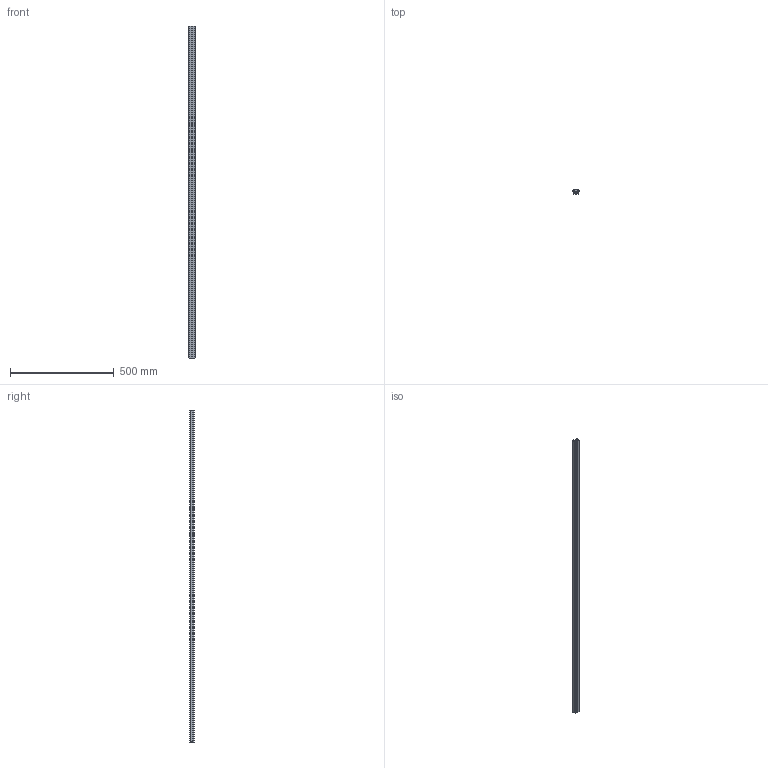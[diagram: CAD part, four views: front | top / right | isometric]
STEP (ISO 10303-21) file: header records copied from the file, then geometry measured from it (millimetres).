
FILE_DESCRIPTION (( 'STEP AP203' ), '1' );
FILE_NAME ('MLF 1_-_MLF 1 1598 mm lang.step', '2005-06-03T08:17:26', ( ' ' ), ( ' ' ), 'SwSTEP 2.0', 'SolidWorks 2004231', '' );
FILE_SCHEMA (( 'CONFIG_CONTROL_DESIGN' ));
Length unit declared in the file: millimetre
Products named in the file (1): MLF 1_-_MLF 1  1598 mm lang
Bounding box: 30 x 20 x 1598 mm (x, y, z)
Volume: 646419.7 mm3; surface area: 281166.3 mm2
Topology: 1 solids, 1 shells, 72 faces, 222 edges, 144 vertices
Faces by surface type: plane 52, cylinder 20
Entity records: 2543 total; most frequent: ORIENTED_EDGE 444, CARTESIAN_POINT 439, DIRECTION 408, EDGE_CURVE 222, VECTOR 182, LINE 182, VERTEX_POINT 144, AXIS2_PLACEMENT_3D 113
